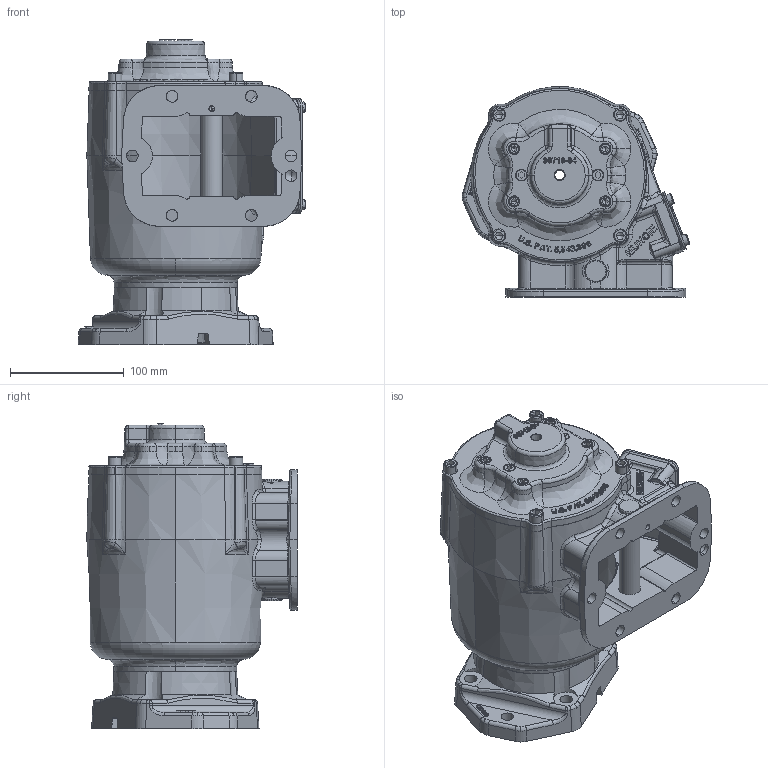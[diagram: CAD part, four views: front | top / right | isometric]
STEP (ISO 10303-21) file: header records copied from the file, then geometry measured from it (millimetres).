
FILE_DESCRIPTION (( 'STEP AP203' ), '1' );
FILE_NAME ('CS6S-XXXXX-E1LX.STEP', '2023-04-13T19:03:37', ( '' ), ( '' ), 'SwSTEP 2.0', 'SolidWorks 2021', '' );
FILE_SCHEMA (( 'CONFIG_CONTROL_DESIGN' ));
Length unit declared in the file: millimetre
Products named in the file (19): 12T36751; 19T35237; 14TA3996; 19T34717; 19T41118; 01T37073; 27T36173_Free Length; 19T36082; 25T21684; 16T41119; 14T37779; 15T36717; 07T37071; 11T65108; 12T34003; 12T35949; 10T21017; CS6S-XXXXX-E1LX; 19T36174
Assembly tree (35 placements, depth 3):
  CS6S-XXXXX-E1LX
    01T37073
    16T41119
    19T41118  x4
    15T36717
    12T34003
    19T35237  x4
    10T21017
    12T36751
    07T37071
    12T35949  x2
    27T36173_Free Length  x4
    19T36174  x4
    25T21684  x2
    19T34717  x4
    19T36082
    14TA3996
      14T37779
      11T65108
Bounding box: 200.42 x 185.25 x 268.87 mm (x, y, z)
Volume: 1496529.3 mm3; surface area: 451731.7 mm2
Topology: 36 solids, 37 shells, 2620 faces, 6614 edges, 4061 vertices
Faces by surface type: plane 782, bspline 773, cylinder 580, cone 316, torus 133, sphere 36
Entity records: 134909 total; most frequent: CARTESIAN_POINT 82725, ORIENTED_EDGE 11578, DIRECTION 8250, EDGE_CURVE 5789, VERTEX_POINT 3614, AXIS2_PLACEMENT_3D 2985, EDGE_LOOP 2535, FACE_OUTER_BOUND 2285
